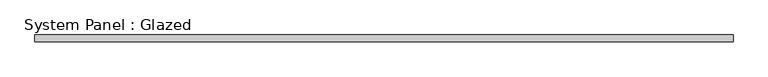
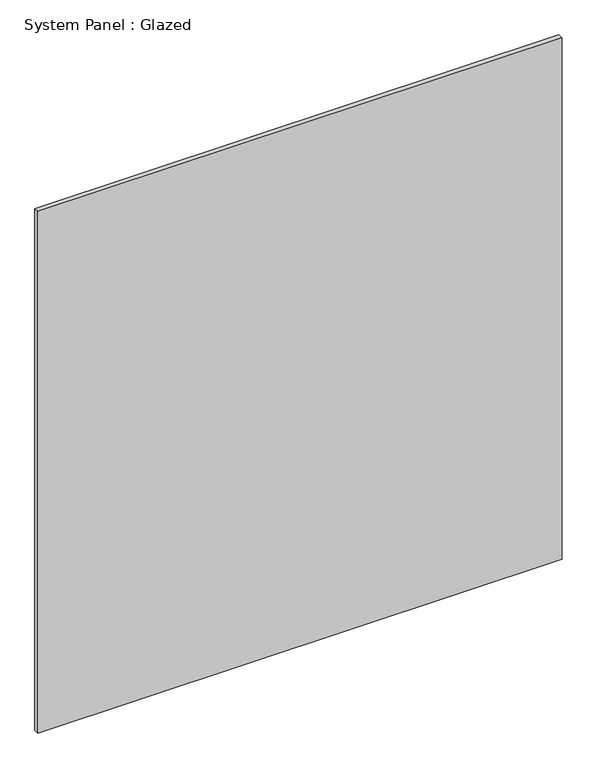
"""IFC4 building model written with IfcOpenShell, lengths in millimetres: plate geometry, System Panel : Glazed."""

from ifc_helpers import new_model, si_unit, origin, origin_with_axes, place, context, project, spatial, polyline, outline, extrude, source, transform, mapped, element, save


def system_panel_glazed_78397629(model_context):
    return source(origin(), model_context, "Body", "SweptSolid", [
        extrude(outline(polyline([(1307.5, 24.5), (-1307.5, 24.5), (-1307.5, 49.5), (1307.5, 49.5), (1307.5, 24.5)])), origin_with_axes(), (0.0, 0.0, 1.0), 2750.0),
    ])


if __name__ == "__main__":
    model = new_model("IFC4")
    model_context = context("Model", 3, world=origin())
    ifc_project = project(units=[si_unit("LENGTHUNIT", "METRE", prefix="MILLI")], contexts=[model_context])
    site = spatial("IfcSite", under=ifc_project)
    building = spatial("IfcBuilding", under=site)
    placement = place(None, origin())
    system_panel_glazed_shape = system_panel_glazed_78397629(model_context)
    element("IfcPlate", 1, ObjectType="System Panel : Glazed", at=placement, inside=building, context=model_context, shape_type="MappedRepresentation", body=[
        mapped(system_panel_glazed_shape, transform((0.0, 0.0, 0.0), x_axis=(1.0, 0.0, 0.0), y_axis=(0.0, 1.0, 0.0), z_axis=(0.0, 0.0, 1.0))),
    ])
    save(model, "model.ifc")
